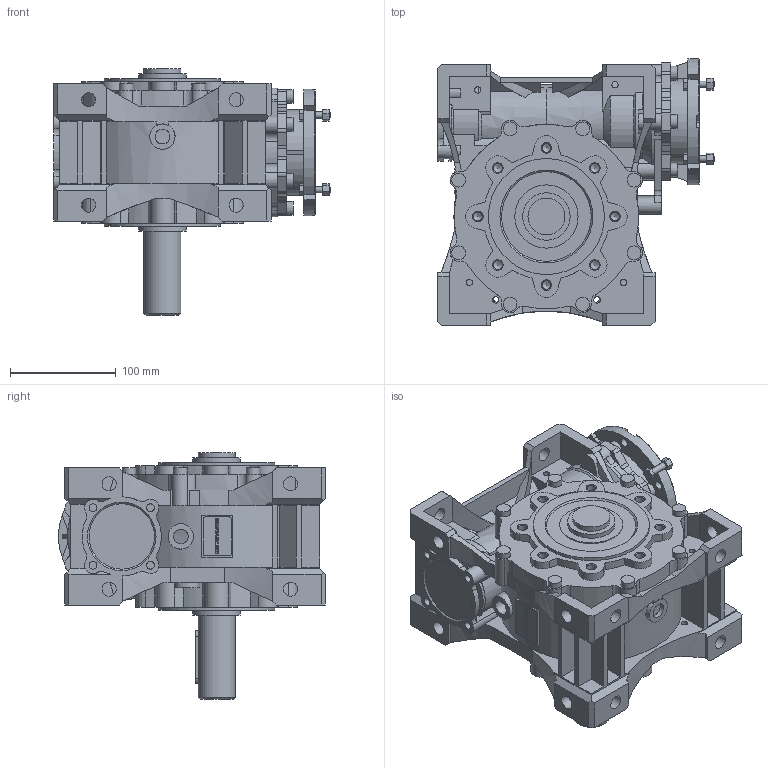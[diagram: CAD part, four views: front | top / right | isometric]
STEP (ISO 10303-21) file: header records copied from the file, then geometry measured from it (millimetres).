
FILE_DESCRIPTION(/* description */ ('STEP AP203'),/* implementation_level */ '2;1');
FILE_NAME(/* name */ 'NMRVP_090_120x19_35_NO_NO_-_-_S35_S_-_-_NO_NO_-_---_---------------',/* time_stamp */ '2025-12-03T08:37:45+01:00',/* author */ ('License CC BY-ND 4.0'),/* organization */ ('CADENAS'),/* preprocessor_version */ 'ST-DEVELOPER v20',/* originating_system */ 'PARTsolutions',/* authorisation */ ' ');
FILE_SCHEMA (('CONFIG_CONTROL_DESIGN'));
Length unit declared in the file: millimetre
Products named in the file (7): NMRVP 090 120x19 35 NO NO - - S35 S - - NO NO - ---(---------------); W.090.01.M; 090-35 (140); AL 090-35(1-2)-p; W.090.14.19.M-p; 9080 B14; 90-50
Assembly tree (6 placements, depth 2):
  NMRVP 090 120x19 35 NO NO - - S35 S - - NO NO - ---(---------------)
    W.090.01.M
    090-35 (140)
    AL 090-35(1-2)-p
    W.090.14.19.M-p
    9080 B14
    90-50
Bounding box: 262.1 x 252.8 x 234 mm (x, y, z)
Volume: 4643549.2 mm3; surface area: 552405.4 mm2
Topology: 6 solids, 8 shells, 1519 faces, 4126 edges, 2730 vertices
Faces by surface type: plane 795, cylinder 625, cone 96, torus 3
Full cylindrical faces by diameter (mm): 6 x20, 7.45 x12, 8.376 x16, 10.106 x1, 13 x15, 13.4 x14, 14 x4, 24 x2, 29 x1, 31 x1, 35 x3, 45 x3, 50 x3, 58 x1, 60 x1, 72.5 x1, 75 x2, 80 x1, 90 x2, 110 x2
Entity records: 47584 total; most frequent: CARTESIAN_POINT 8977, DIRECTION 8133, ORIENTED_EDGE 7820, EDGE_CURVE 3910, AXIS2_PLACEMENT_3D 2932, VERTEX_POINT 2692, LINE 2269, VECTOR 2269
